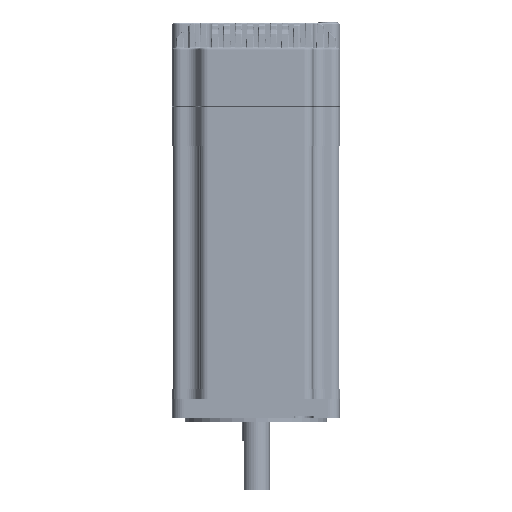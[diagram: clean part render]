
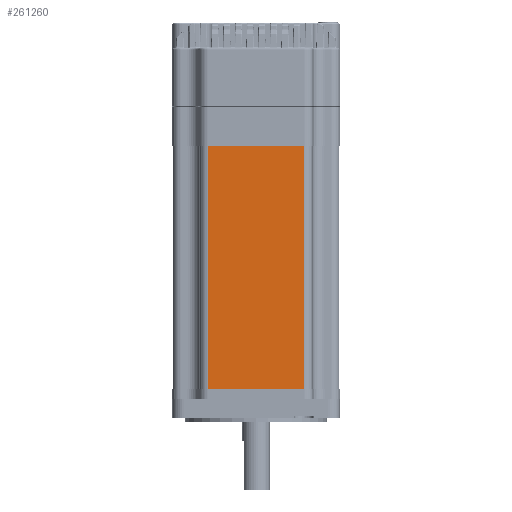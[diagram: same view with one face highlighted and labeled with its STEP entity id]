
A CAD part, left-side view. The second image highlights one B-rep face of the part: STEP entity #261260.
In plain terms, the highlighted planar face has unit normal (-1, 0, 0).
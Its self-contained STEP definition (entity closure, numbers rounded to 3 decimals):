
#8062 = EDGE_CURVE ( 'NONE', #50380, #92104, #53045, .T. ) ;
#14663 = DIRECTION ( 'NONE',  ( -1., 0., 0. ) ) ;
#23570 = LINE ( 'NONE', #35429, #146410 ) ;
#26680 = VECTOR ( 'NONE', #128315, 1000. ) ;
#35429 = CARTESIAN_POINT ( 'NONE',  ( -42.85, -24.55, 125. ) ) ;
#50380 = VERTEX_POINT ( 'NONE', #225708 ) ;
#53045 = LINE ( 'NONE', #119838, #67511 ) ;
#67511 = VECTOR ( 'NONE', #234673, 1000. ) ;
#80582 = VERTEX_POINT ( 'NONE', #119489 ) ;
#83415 = PLANE ( 'NONE',  #266333 ) ;
#90918 = EDGE_CURVE ( 'NONE', #50380, #227505, #23570, .T. ) ;
#92104 = VERTEX_POINT ( 'NONE', #279537 ) ;
#106657 = CARTESIAN_POINT ( 'NONE',  ( -42.85, 0., 125. ) ) ;
#119489 = CARTESIAN_POINT ( 'NONE',  ( -42.85, 24.55, 0. ) ) ;
#119838 = CARTESIAN_POINT ( 'NONE',  ( -42.85, 0., 125. ) ) ;
#123113 = FACE_OUTER_BOUND ( 'NONE', #126671, .T. ) ;
#126671 = EDGE_LOOP ( 'NONE', ( #198492, #169700, #147968, #268246 ) ) ;
#128315 = DIRECTION ( 'NONE',  ( 0., 1., 0. ) ) ;
#130190 = CARTESIAN_POINT ( 'NONE',  ( -42.85, 24.55, 125. ) ) ;
#141124 = LINE ( 'NONE', #130190, #271063 ) ;
#146410 = VECTOR ( 'NONE', #265459, 1000. ) ;
#147968 = ORIENTED_EDGE ( 'NONE', *, *, #8062, .T. ) ;
#156706 = LINE ( 'NONE', #289624, #26680 ) ;
#169700 = ORIENTED_EDGE ( 'NONE', *, *, #90918, .F. ) ;
#176058 = DIRECTION ( 'NONE',  ( 0., -1., 0. ) ) ;
#177673 = EDGE_CURVE ( 'NONE', #92104, #80582, #141124, .T. ) ;
#198492 = ORIENTED_EDGE ( 'NONE', *, *, #284759, .F. ) ;
#214336 = CARTESIAN_POINT ( 'NONE',  ( -42.85, -24.55, 0. ) ) ;
#225708 = CARTESIAN_POINT ( 'NONE',  ( -42.85, -24.55, 125. ) ) ;
#227505 = VERTEX_POINT ( 'NONE', #214336 ) ;
#234673 = DIRECTION ( 'NONE',  ( 0., 1., 0. ) ) ;
#261260 = ADVANCED_FACE ( 'NONE', ( #123113 ), #83415, .T. ) ;
#265459 = DIRECTION ( 'NONE',  ( 0., 0., -1. ) ) ;
#266333 = AXIS2_PLACEMENT_3D ( 'NONE', #106657, #14663, #176058 ) ;
#268246 = ORIENTED_EDGE ( 'NONE', *, *, #177673, .T. ) ;
#271063 = VECTOR ( 'NONE', #291513, 1000. ) ;
#279537 = CARTESIAN_POINT ( 'NONE',  ( -42.85, 24.55, 125. ) ) ;
#284759 = EDGE_CURVE ( 'NONE', #227505, #80582, #156706, .T. ) ;
#289624 = CARTESIAN_POINT ( 'NONE',  ( -42.85, 0., 0. ) ) ;
#291513 = DIRECTION ( 'NONE',  ( 0., 0., -1. ) ) ;
